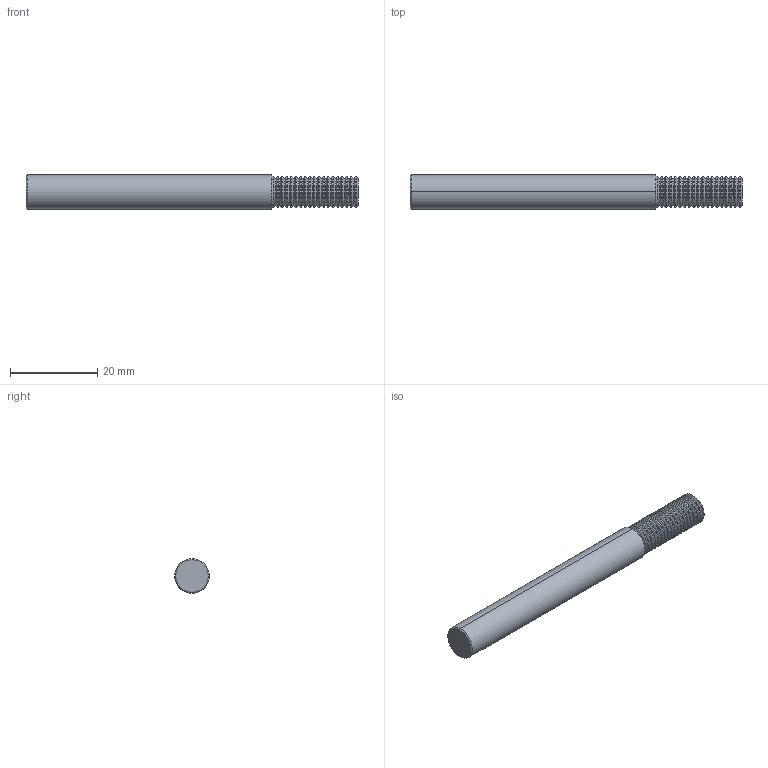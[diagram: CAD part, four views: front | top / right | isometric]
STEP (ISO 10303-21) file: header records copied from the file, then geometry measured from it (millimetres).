
FILE_DESCRIPTION (( 'STEP AP203' ), '1' );
FILE_NAME ('TMI285-24H.STEP', '2021-09-16T18:10:15', ( '' ), ( '' ), 'SwSTEP 2.0', 'SolidWorks 2020', '' );
FILE_SCHEMA (( 'CONFIG_CONTROL_DESIGN' ));
Length unit declared in the file: inch
Products named in the file (1): TMI285-24H
Bounding box: 76.2 x 7.93 x 7.93 mm (x, y, z)
Volume: 3490.1 mm3; surface area: 2146.1 mm2
Topology: 1 solids, 1 shells, 158 faces, 314 edges, 158 vertices
Faces by surface type: cylinder 78, cone 78, plane 2
Entity records: 4023 total; most frequent: DIRECTION 790, CARTESIAN_POINT 631, ORIENTED_EDGE 628, AXIS2_PLACEMENT_3D 317, EDGE_CURVE 314, FACE_OUTER_BOUND 158, CIRCLE 158, EDGE_LOOP 158
